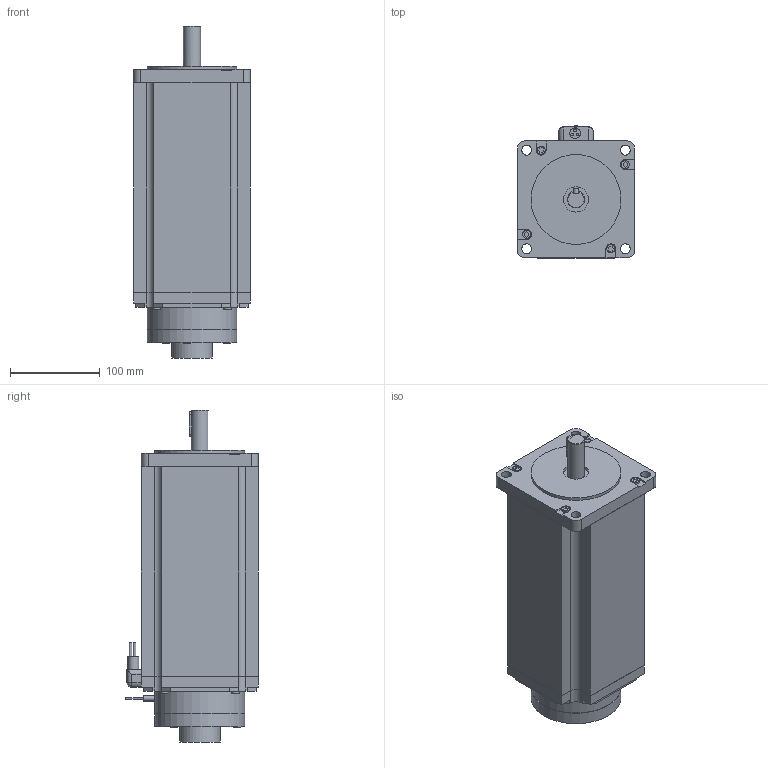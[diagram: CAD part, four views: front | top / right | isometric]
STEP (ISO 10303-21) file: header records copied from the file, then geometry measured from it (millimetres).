
FILE_DESCRIPTION(/* description */ (''),/* implementation_level */ '2;1');
FILE_NAME(/* name */ 'UB130D24-D50-3260.stp',/* time_stamp */ '2018-08-21T08:45:18+08:00',/* author */ (''),/* organization */ (''),/* preprocessor_version */ 'ST-DEVELOPER v11',/* originating_system */ 'SIEMENS UGS NX 6.0',/* authorisation */ '');
FILE_SCHEMA (('CONFIG_CONTROL_DESIGN'));
Length unit declared in the file: millimetre
Products named in the file (1): UB130D24-D50-3260
Bounding box: 130 x 147.5 x 369 mm (x, y, z)
Volume: 4342360.8 mm3; surface area: 204925.8 mm2
Topology: 2 solids, 6 shells, 235 faces, 576 edges, 388 vertices
Faces by surface type: plane 167, cylinder 65, sphere 2, torus 1
Full cylindrical faces by diameter (mm): 1.5 x2, 3 x3, 4 x6, 6 x1, 8 x10, 9 x4, 11 x4, 12 x1, 19 x1, 28 x1, 45 x2, 100 x3
Entity records: 6704 total; most frequent: CARTESIAN_POINT 1230, DIRECTION 1106, ORIENTED_EDGE 1022, EDGE_CURVE 511, LINE 380, VECTOR 380, VERTEX_POINT 363, AXIS2_PLACEMENT_3D 363
